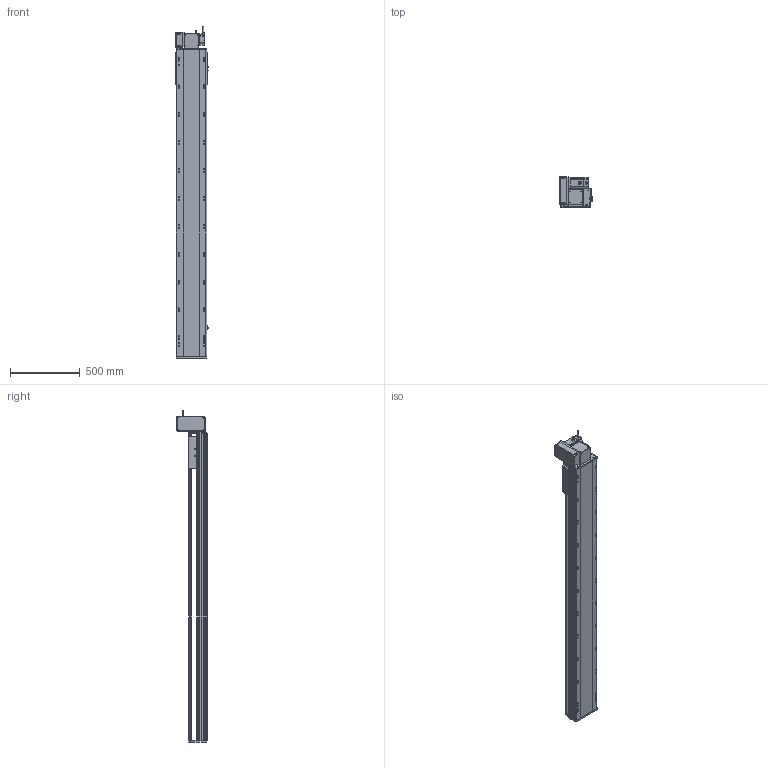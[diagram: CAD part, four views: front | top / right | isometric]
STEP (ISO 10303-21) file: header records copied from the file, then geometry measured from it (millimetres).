
FILE_DESCRIPTION (( 'STEP AP214' ), '1' );
FILE_NAME ('RTB22S-XX-1850-LW-M75-C4.STEP', '2025-12-12T05:59:44', ( '' ), ( '' ), 'SwSTEP 2.0', 'SolidWorks 2018', '' );
FILE_SCHEMA (( 'AUTOMOTIVE_DESIGN' ));
Length unit declared in the file: millimetre
Products named in the file (14): RTB22S-XX-1850-LW-M75-C4; RTB22S-GY-014--々湍釱^RTB22S-LW-々湍釱蚾饜_RTB22S-XX-XX-LW-M75-C4; RTB22S-LW-々湍釱蚾饜^RTB22S-XX-XX-LW-M75-C4; RTB22S-GY-008-M75--萇儂啣^RTB22S-LW-々湍釱蚾饜_RTB22S-XX-XX-LW-M75-C4; RTH22-GY-013外置感应片^RTB22S-XX-XX-LW-M75-C4; 750W萇儂^RTB22S-XX-XX-LW-M75-C4; OMRON EE-SX672 传感器^RTB22S-XX-XX-LW-M75-C4; RTB22S-GY-005P^RTB22S-LW-々湍釱蚾饜_RTB22S-XX-XX-LW-M75-C4; RTB22S-GY-017P^RTB22S-LW-々湍釱蚾饜_RTB22S-XX-XX-LW-M75-C4; RTB22S-GY-018P^RTB22S-LW-々湍釱蚾饜_RTB22S-XX-XX-LW-M75-C4; RTB22S-GY-001耜裔^RTB22S-XX-XX-LW-M75-C4; RTB22S-GY-007奻裔^RTB22S-XX-XX-LW-M75-C4; RTB22S-L-011菁釱^RTB22S-XX-XX-LW-M75-C4; RTB22S-L-004賑釱^RTB22S-XX-XX-LW-M75-C4
Assembly tree (16 placements, depth 3):
  RTB22S-XX-1850-LW-M75-C4
    RTB22S-L-011菁釱^RTB22S-XX-XX-LW-M75-C4
    RTB22S-GY-001耜裔^RTB22S-XX-XX-LW-M75-C4
    750W萇儂^RTB22S-XX-XX-LW-M75-C4
    RTB22S-GY-007奻裔^RTB22S-XX-XX-LW-M75-C4
    RTB22S-L-004賑釱^RTB22S-XX-XX-LW-M75-C4
    RTH22-GY-013外置感应片^RTB22S-XX-XX-LW-M75-C4
    OMRON EE-SX672 传感器^RTB22S-XX-XX-LW-M75-C4  x3
    RTB22S-LW-々湍釱蚾饜^RTB22S-XX-XX-LW-M75-C4
      RTB22S-GY-014--々湍釱^RTB22S-LW-々湍釱蚾饜_RTB22S-XX-XX-LW-M75-C4
      RTB22S-GY-017P^RTB22S-LW-々湍釱蚾饜_RTB22S-XX-XX-LW-M75-C4  x2
      RTB22S-GY-005P^RTB22S-LW-々湍釱蚾饜_RTB22S-XX-XX-LW-M75-C4
      RTB22S-GY-008-M75--萇儂啣^RTB22S-LW-々湍釱蚾饜_RTB22S-XX-XX-LW-M75-C4
      RTB22S-GY-018P^RTB22S-LW-々湍釱蚾饜_RTB22S-XX-XX-LW-M75-C4
Bounding box: 238.5 x 215.5 x 2382.2 mm (x, y, z)
Volume: 31187696.5 mm3; surface area: 3207799.1 mm2
Topology: 15 solids, 15 shells, 2055 faces, 5586 edges, 3572 vertices
Faces by surface type: plane 923, cylinder 670, bspline 296, cone 154, sphere 8, torus 4
Entity records: 55400 total; most frequent: CARTESIAN_POINT 15764, ORIENTED_EDGE 7928, DIRECTION 7698, EDGE_CURVE 3964, AXIS2_PLACEMENT_3D 2742, VERTEX_POINT 2576, LINE 2214, VECTOR 2214
